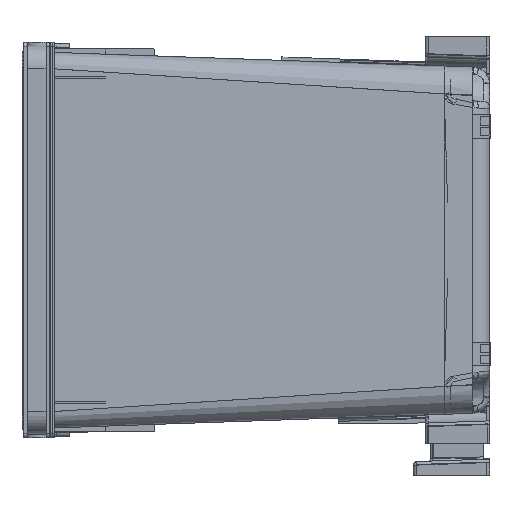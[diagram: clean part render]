
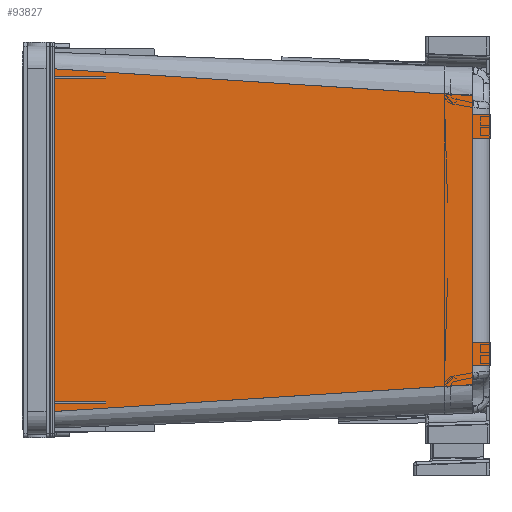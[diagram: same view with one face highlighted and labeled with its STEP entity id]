
A CAD part, left-side view. The second image highlights one B-rep face of the part: STEP entity #93827.
In plain terms, the highlighted planar face has unit normal (-0.999, -0.035, 0).
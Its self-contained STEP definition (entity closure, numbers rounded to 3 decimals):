
#85454=DIRECTION('',(0.,0.,1.));
#85455=VECTOR('',#85454,5.978);
#85456=CARTESIAN_POINT('',(-327.05,14.477,
-286.478));
#85457=LINE('',#85456,#85455);
#85458=DIRECTION('',(0.035,-0.999,0.));
#85459=VECTOR('',#85458,14.786);
#85460=CARTESIAN_POINT('',(-327.05,14.477,-280.5));
#85461=LINE('',#85460,#85459);
#85475=DIRECTION('',(0.,0.,1.));
#85476=VECTOR('',#85475,6.847);
#85477=CARTESIAN_POINT('',(-339.556,372.6,-34.25));
#85478=LINE('',#85477,#85476);
#85479=DIRECTION('',(0.035,-0.997,-0.064));
#85480=VECTOR('',#85479,358.557);
#85481=CARTESIAN_POINT('',(-339.556,372.6,
-27.403));
#85482=LINE('',#85481,#85480);
#85483=DIRECTION('',(0.034,-0.984,-0.174));
#85484=VECTOR('',#85483,0.532);
#85485=CARTESIAN_POINT('',(-327.068,15.,-60.43));
#85486=LINE('',#85485,#85484);
#85487=DIRECTION('',(0.,0.,-1.));
#85488=VECTOR('',#85487,20.);
#85489=CARTESIAN_POINT('',(-326.534,-0.3,-66.5));
#85490=LINE('',#85489,#85488);
#85491=DIRECTION('',(-0.034,0.984,-0.174));
#85492=VECTOR('',#85491,0.532);
#85493=CARTESIAN_POINT('',(-327.05,14.477,
-286.478));
#85494=LINE('',#85493,#85492);
#85495=DIRECTION('',(0.,0.,-1.));
#85496=VECTOR('',#85495,10.017);
#85497=CARTESIAN_POINT('',(-327.068,15.,-286.57));
#85498=LINE('',#85497,#85496);
#85499=DIRECTION('',(-0.035,0.997,-0.064));
#85500=VECTOR('',#85499,358.557);
#85501=CARTESIAN_POINT('',(-327.068,15.,
-296.587));
#85502=LINE('',#85501,#85500);
#85503=DIRECTION('',(0.,0.,1.));
#85504=VECTOR('',#85503,6.847);
#85505=CARTESIAN_POINT('',(-339.556,372.6,
-319.597));
#85506=LINE('',#85505,#85504);
#85507=DIRECTION('',(0.,0.,1.));
#85508=VECTOR('',#85507,1.5);
#85509=CARTESIAN_POINT('',(-337.963,327.,-312.75));
#85510=LINE('',#85509,#85508);
#85511=DIRECTION('',(0.,0.,1.));
#85512=VECTOR('',#85511,275.5);
#85513=CARTESIAN_POINT('',(-339.556,372.6,-311.25));
#85514=LINE('',#85513,#85512);
#85519=DIRECTION('',(-0.035,0.999,0.));
#85520=VECTOR('',#85519,45.628);
#85521=CARTESIAN_POINT('',(-337.963,327.,-35.75));
#85522=LINE('',#85521,#85520);
#85588=CARTESIAN_POINT('',(-339.556,372.6,
-27.403));
#85602=DIRECTION('',(0.035,-0.999,0.));
#85603=VECTOR('',#85602,45.628);
#85604=CARTESIAN_POINT('',(-339.556,372.6,-311.25));
#85605=LINE('',#85604,#85603);
#85626=DIRECTION('',(-0.035,0.999,0.));
#85627=VECTOR('',#85626,45.628);
#85628=CARTESIAN_POINT('',(-337.963,327.,-312.75));
#85629=LINE('',#85628,#85627);
#89832=DIRECTION('',(0.,0.,1.));
#89833=VECTOR('',#89832,5.978);
#89834=CARTESIAN_POINT('',(-327.05,14.477,-66.5));
#89835=LINE('',#89834,#89833);
#89840=DIRECTION('',(-0.035,0.999,0.));
#89841=VECTOR('',#89840,14.786);
#89842=CARTESIAN_POINT('',(-326.534,-0.3,-66.5));
#89843=LINE('',#89842,#89841);
#89936=DIRECTION('',(0.035,-0.999,0.));
#89937=VECTOR('',#89936,14.786);
#89938=CARTESIAN_POINT('',(-327.05,14.477,-86.5));
#89939=LINE('',#89938,#89937);
#89953=DIRECTION('',(0.,0.,1.));
#89954=VECTOR('',#89953,174.);
#89955=CARTESIAN_POINT('',(-327.05,14.477,-260.5));
#89956=LINE('',#89955,#89954);
#89961=DIRECTION('',(-0.035,0.999,0.));
#89962=VECTOR('',#89961,14.786);
#89963=CARTESIAN_POINT('',(-326.534,-0.3,-260.5));
#89964=LINE('',#89963,#89962);
#90028=DIRECTION('',(0.,0.,1.));
#90029=VECTOR('',#90028,20.);
#90030=CARTESIAN_POINT('',(-326.534,-0.3,-280.5));
#90031=LINE('',#90030,#90029);
#90182=DIRECTION('',(0.,0.,1.));
#90183=VECTOR('',#90182,10.017);
#90184=CARTESIAN_POINT('',(-327.068,15.,-60.43));
#90185=LINE('',#90184,#90183);
#90996=DIRECTION('',(0.035,-0.999,0.));
#90997=VECTOR('',#90996,45.628);
#90998=CARTESIAN_POINT('',(-339.556,372.6,-34.25));
#90999=LINE('',#90998,#90997);
#91008=DIRECTION('',(0.,0.,-1.));
#91009=VECTOR('',#91008,1.5);
#91010=CARTESIAN_POINT('',(-337.963,327.,-34.25));
#91011=LINE('',#91010,#91009);
#91642=CARTESIAN_POINT('',(-339.556,372.6,-35.75));
#91644=VERTEX_POINT('',#91642);
#91646=CARTESIAN_POINT('',(-339.556,372.6,-311.25));
#91647=VERTEX_POINT('',#91646);
#91652=CARTESIAN_POINT('',(-339.556,372.6,-312.75));
#91653=VERTEX_POINT('',#91652);
#91654=CARTESIAN_POINT('',(-339.556,372.6,
-319.597));
#91655=VERTEX_POINT('',#91654);
#91679=VERTEX_POINT('',#85588);
#91680=CARTESIAN_POINT('',(-339.556,372.6,-34.25));
#91681=VERTEX_POINT('',#91680);
#91686=CARTESIAN_POINT('',(-337.963,327.,-35.75));
#91687=VERTEX_POINT('',#91686);
#91690=CARTESIAN_POINT('',(-337.963,327.,-34.25));
#91691=VERTEX_POINT('',#91690);
#91692=CARTESIAN_POINT('',(-327.068,15.,
-50.413));
#91693=VERTEX_POINT('',#91692);
#91694=CARTESIAN_POINT('',(-327.068,15.,-60.43));
#91695=VERTEX_POINT('',#91694);
#91696=CARTESIAN_POINT('',(-327.05,14.477,
-60.522));
#91697=VERTEX_POINT('',#91696);
#91698=CARTESIAN_POINT('',(-327.05,14.477,-66.5));
#91699=VERTEX_POINT('',#91698);
#91700=CARTESIAN_POINT('',(-326.534,-0.3,-66.5));
#91701=VERTEX_POINT('',#91700);
#91702=CARTESIAN_POINT('',(-326.534,-0.3,-86.5));
#91703=VERTEX_POINT('',#91702);
#91704=CARTESIAN_POINT('',(-327.05,14.477,-86.5));
#91705=VERTEX_POINT('',#91704);
#91706=CARTESIAN_POINT('',(-327.05,14.477,-260.5));
#91707=VERTEX_POINT('',#91706);
#91708=CARTESIAN_POINT('',(-326.534,-0.3,-260.5));
#91709=VERTEX_POINT('',#91708);
#91710=CARTESIAN_POINT('',(-326.534,-0.3,-280.5));
#91711=VERTEX_POINT('',#91710);
#91712=CARTESIAN_POINT('',(-327.05,14.477,-280.5));
#91713=VERTEX_POINT('',#91712);
#91714=CARTESIAN_POINT('',(-327.05,14.477,
-286.478));
#91715=VERTEX_POINT('',#91714);
#91716=CARTESIAN_POINT('',(-327.068,15.,-286.57));
#91717=VERTEX_POINT('',#91716);
#91718=CARTESIAN_POINT('',(-327.068,15.,
-296.587));
#91719=VERTEX_POINT('',#91718);
#91720=CARTESIAN_POINT('',(-337.963,327.,-312.75));
#91721=VERTEX_POINT('',#91720);
#91722=CARTESIAN_POINT('',(-337.963,327.,-311.25));
#91723=VERTEX_POINT('',#91722);
#93775=CARTESIAN_POINT('',(-339.5,371.,-11.3));
#93776=DIRECTION('',(0.999,0.035,0.));
#93777=DIRECTION('',(0.,0.,-1.));
#93778=AXIS2_PLACEMENT_3D('',#93775,#93776,#93777);
#93779=PLANE('',#93778);
#93781=ORIENTED_EDGE('',*,*,#93780,.F.);
#93783=ORIENTED_EDGE('',*,*,#93782,.F.);
#93785=ORIENTED_EDGE('',*,*,#93784,.F.);
#93787=ORIENTED_EDGE('',*,*,#93786,.T.);
#93789=ORIENTED_EDGE('',*,*,#93788,.T.);
#93791=ORIENTED_EDGE('',*,*,#93790,.F.);
#93793=ORIENTED_EDGE('',*,*,#93792,.T.);
#93795=ORIENTED_EDGE('',*,*,#93794,.F.);
#93797=ORIENTED_EDGE('',*,*,#93796,.F.);
#93799=ORIENTED_EDGE('',*,*,#93798,.T.);
#93801=ORIENTED_EDGE('',*,*,#93800,.F.);
#93803=ORIENTED_EDGE('',*,*,#93802,.F.);
#93805=ORIENTED_EDGE('',*,*,#93804,.F.);
#93807=ORIENTED_EDGE('',*,*,#93806,.F.);
#93808=ORIENTED_EDGE('',*,*,#93765,.F.);
#93809=ORIENTED_EDGE('',*,*,#93755,.F.);
#93810=ORIENTED_EDGE('',*,*,#92458,.T.);
#93812=ORIENTED_EDGE('',*,*,#93811,.T.);
#93814=ORIENTED_EDGE('',*,*,#93813,.T.);
#93816=ORIENTED_EDGE('',*,*,#93815,.T.);
#93818=ORIENTED_EDGE('',*,*,#93817,.F.);
#93820=ORIENTED_EDGE('',*,*,#93819,.T.);
#93822=ORIENTED_EDGE('',*,*,#93821,.F.);
#93824=ORIENTED_EDGE('',*,*,#93823,.T.);
#93825=EDGE_LOOP('',(#93781,#93783,#93785,#93787,#93789,#93791,#93793,#93795,
#93797,#93799,#93801,#93803,#93805,#93807,#93808,#93809,#93810,#93812,#93814,
#93816,#93818,#93820,#93822,#93824));
#93826=FACE_OUTER_BOUND('',#93825,.F.);
#92458=EDGE_CURVE('',#91715,#91717,#85494,.T.);
#93755=EDGE_CURVE('',#91715,#91713,#85457,.T.);
#93765=EDGE_CURVE('',#91713,#91711,#85461,.T.);
#93780=EDGE_CURVE('',#91687,#91644,#85522,.T.);
#93782=EDGE_CURVE('',#91691,#91687,#91011,.T.);
#93784=EDGE_CURVE('',#91681,#91691,#90999,.T.);
#93786=EDGE_CURVE('',#91681,#91679,#85478,.T.);
#93788=EDGE_CURVE('',#91679,#91693,#85482,.T.);
#93790=EDGE_CURVE('',#91695,#91693,#90185,.T.);
#93792=EDGE_CURVE('',#91695,#91697,#85486,.T.);
#93794=EDGE_CURVE('',#91699,#91697,#89835,.T.);
#93796=EDGE_CURVE('',#91701,#91699,#89843,.T.);
#93798=EDGE_CURVE('',#91701,#91703,#85490,.T.);
#93800=EDGE_CURVE('',#91705,#91703,#89939,.T.);
#93802=EDGE_CURVE('',#91707,#91705,#89956,.T.);
#93804=EDGE_CURVE('',#91709,#91707,#89964,.T.);
#93806=EDGE_CURVE('',#91711,#91709,#90031,.T.);
#93811=EDGE_CURVE('',#91717,#91719,#85498,.T.);
#93813=EDGE_CURVE('',#91719,#91655,#85502,.T.);
#93815=EDGE_CURVE('',#91655,#91653,#85506,.T.);
#93817=EDGE_CURVE('',#91721,#91653,#85629,.T.);
#93819=EDGE_CURVE('',#91721,#91723,#85510,.T.);
#93821=EDGE_CURVE('',#91647,#91723,#85605,.T.);
#93823=EDGE_CURVE('',#91647,#91644,#85514,.T.);
#93827=ADVANCED_FACE('',(#93826),#93779,.F.);
